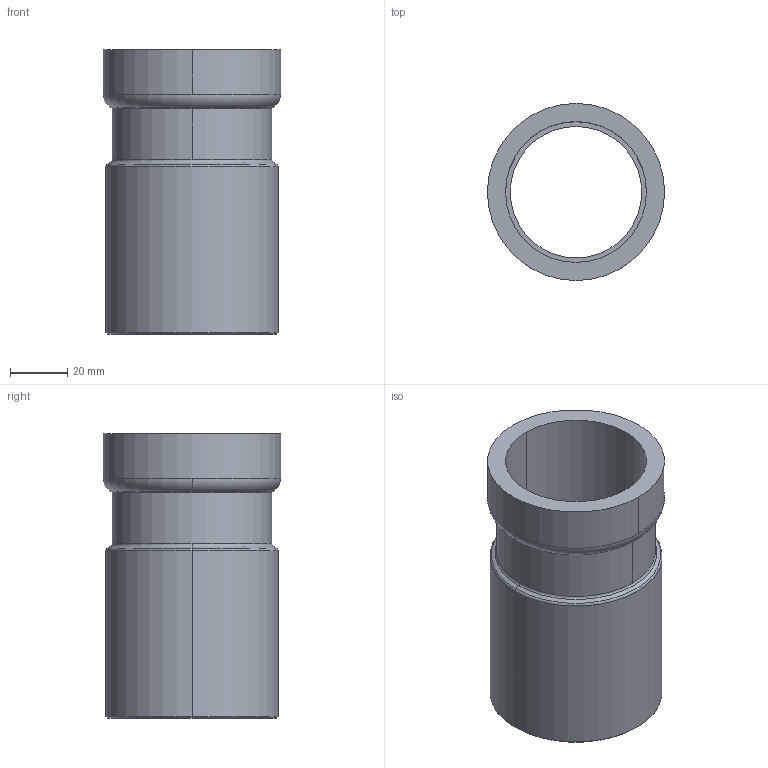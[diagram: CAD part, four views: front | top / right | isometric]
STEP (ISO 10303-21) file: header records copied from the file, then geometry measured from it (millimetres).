
FILE_DESCRIPTION(('Creo Elements/Direct Modeling STEP Export'),'2;1');
FILE_NAME('C9407_1-1-2_2.stp','2020-06-23T14:30:54',(''),(''),'PTC Creo Elements/Direct Modeling STEP processor for AP214 (Solid Model)','PTC Creo Elements/Direct Modeling 19.0C 15-Aug-2015 (C) Parametric Technology GmbH','');
FILE_SCHEMA(('AUTOMOTIVE_DESIGN { 1 0 10303 214 1 1 1 1 }'));
Length unit declared in the file: millimetre
Products named in the file (2): 9407_1-1-2_2
Assembly tree (1 placements, depth 2):
  9407_1-1-2_2
    9407_1-1-2_2
Bounding box: 62 x 62 x 99.57 mm (x, y, z)
Volume: 84407.4 mm3; surface area: 37013.3 mm2
Topology: 1 solids, 1 shells, 29 faces, 64 edges, 38 vertices
Faces by surface type: cylinder 12, torus 8, cone 6, plane 3
Entity records: 751 total; most frequent: DIRECTION 128, ORIENTED_EDGE 128, CARTESIAN_POINT 111, EDGE_CURVE 64, AXIS2_PLACEMENT_3D 55, VERTEX_POINT 38, EDGE_LOOP 32, FACE_OUTER_BOUND 29
